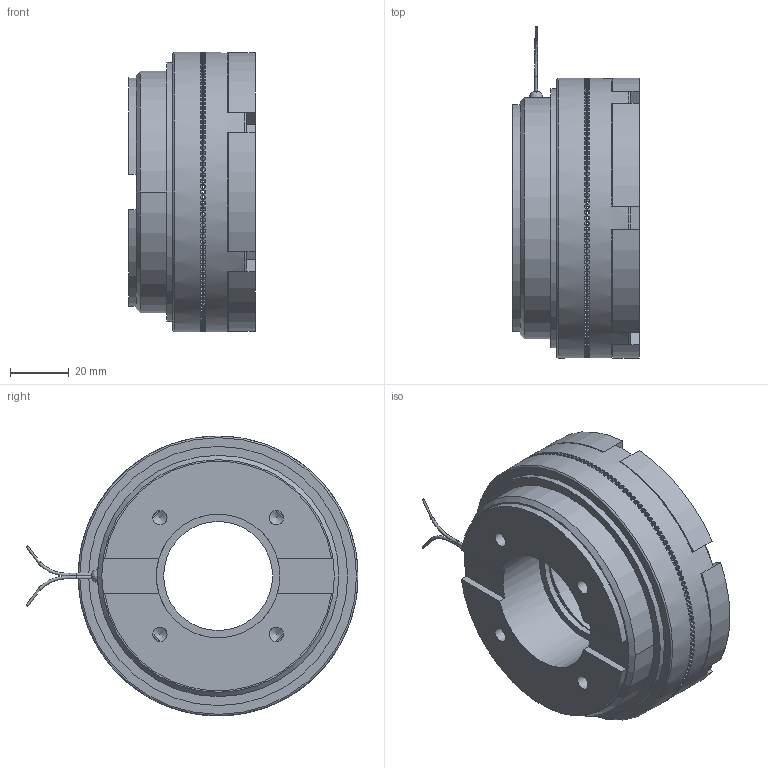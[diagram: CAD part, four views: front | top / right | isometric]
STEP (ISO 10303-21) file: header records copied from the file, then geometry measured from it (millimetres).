
FILE_DESCRIPTION(/* description */ (''),/* implementation_level */ '2;1');
FILE_NAME(/* name */ 'X:\INVENTOR\DISEGNI\07_Innesti_Elettmag_a_Dentini\07_09 EBLF_Z\07_09_095_01 EBLF095_Z\07_09_095_01 EBLF095_Z@STEP.stp',/* time_stamp */ '2023-02-09T13:54:45+01:00',/* author */ ('alessio'),/* organization */ (''),/* preprocessor_version */ 'ST-DEVELOPER v18.1',/* originating_system */ 'Autodesk Inventor 2021',/* authorisation */ '');
FILE_SCHEMA (('AUTOMOTIVE_DESIGN { 1 0 10303 214 3 1 1 }'));
Products named in the file (1): 07_09_095_01 EBLF095_Z
Bounding box: 43 x 112.74 x 95 mm (x, y, z)
Volume: 195768.2 mm3; surface area: 66940.5 mm2
Topology: 4 solids, 7 shells, 1582 faces, 4630 edges, 3059 vertices
Faces by surface type: plane 1420, cylinder 92, bspline 45, cone 22, torus 3
Full cylindrical faces by diameter (mm): 0.72 x2, 1 x1, 3 x4, 3.242 x6, 4.917 x4, 5.25 x3, 5.75 x3, 8 x3, 9.5 x3, 37 x1, 42 x1, 44.5 x1, 45 x2, 59 x2, 60 x1, 74 x1, 75 x2, 84 x1, 85.5 x1, 86 x1, 88 x1, 95 x2
Entity records: 58843 total; most frequent: CARTESIAN_POINT 12710, DIRECTION 10397, ORIENTED_EDGE 9252, EDGE_CURVE 4626, AXIS2_PLACEMENT_3D 4349, VERTEX_POINT 3060, ELLIPSE 1863, LINE 1699
